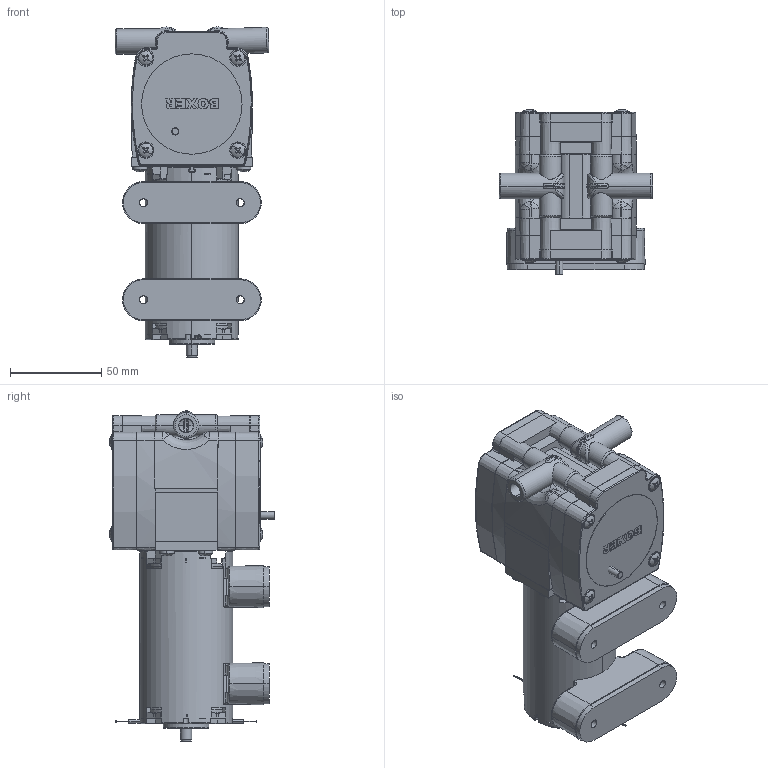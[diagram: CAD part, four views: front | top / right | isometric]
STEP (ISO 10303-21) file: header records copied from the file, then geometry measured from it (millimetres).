
FILE_DESCRIPTION (( 'STEP AP203' ), '1' );
FILE_NAME ('Boxer 7502 Part.STEP', '2012-02-06T16:11:15', ( 'USER' ), ( '' ), 'SwSTEP 2.0', 'SolidWorks 2010', '' );
FILE_SCHEMA (( 'CONFIG_CONTROL_DESIGN' ));
Products named in the file (1): Boxer 7502 Part
Bounding box: 84.17 x 90.38 x 180.7 mm (x, y, z)
Surface area: 101999.4 mm2 (no closed solid volume)
Topology: 0 solids, 34 shells, 1181 faces, 4475 edges, 3199 vertices
Faces by surface type: plane 511, cylinder 303, bspline 183, cone 84, torus 72, sphere 28
Entity records: 59189 total; most frequent: CARTESIAN_POINT 23300, DIRECTION 7298, ORIENTED_EDGE 7076, EDGE_CURVE 4439, VERTEX_POINT 3197, AXIS2_PLACEMENT_3D 2737, VECTOR 1824, LINE 1824
